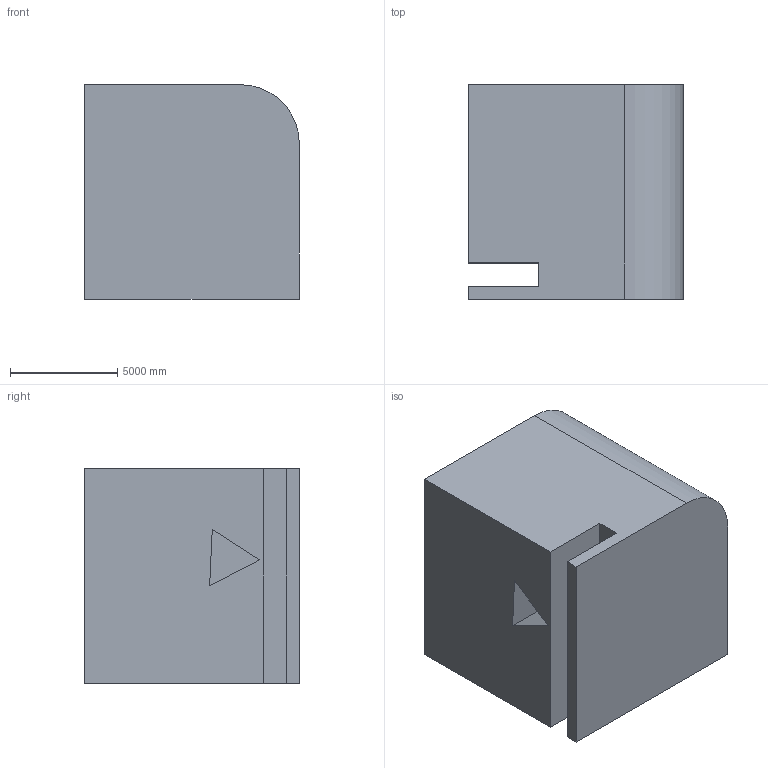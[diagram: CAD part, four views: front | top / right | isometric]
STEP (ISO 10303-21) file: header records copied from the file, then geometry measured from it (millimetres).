
FILE_DESCRIPTION (( 'STEP AP203' ), '1' );
FILE_NAME ('308.STEP', '2022-07-28T14:17:12', ( 'user' ), ( '' ), 'SwSTEP 2.0', 'SolidWorks 2021', '' );
FILE_SCHEMA (( 'CONFIG_CONTROL_DESIGN' ));
Length unit declared in the file: centimetre
Products named in the file (1): 308
Bounding box: 10000 x 10000 x 10000 mm (x, y, z)
Volume: 912359894635.8 mm3; surface area: 739490402.1 mm2
Topology: 1 solids, 1 shells, 19 faces, 45 edges, 30 vertices
Faces by surface type: plane 18, cylinder 1
Entity records: 618 total; most frequent: CARTESIAN_POINT 95, ORIENTED_EDGE 90, DIRECTION 87, EDGE_CURVE 45, VECTOR 43, LINE 43, VERTEX_POINT 30, AXIS2_PLACEMENT_3D 22
